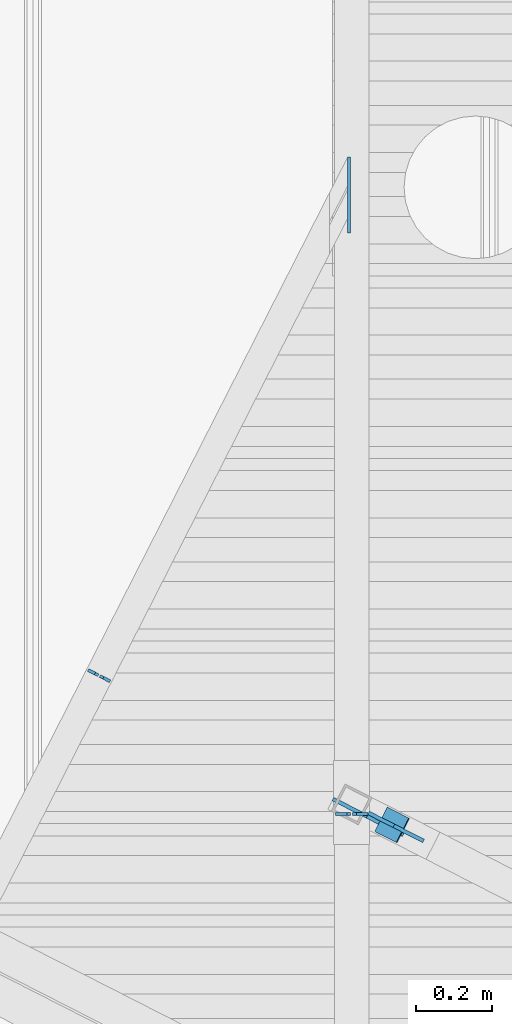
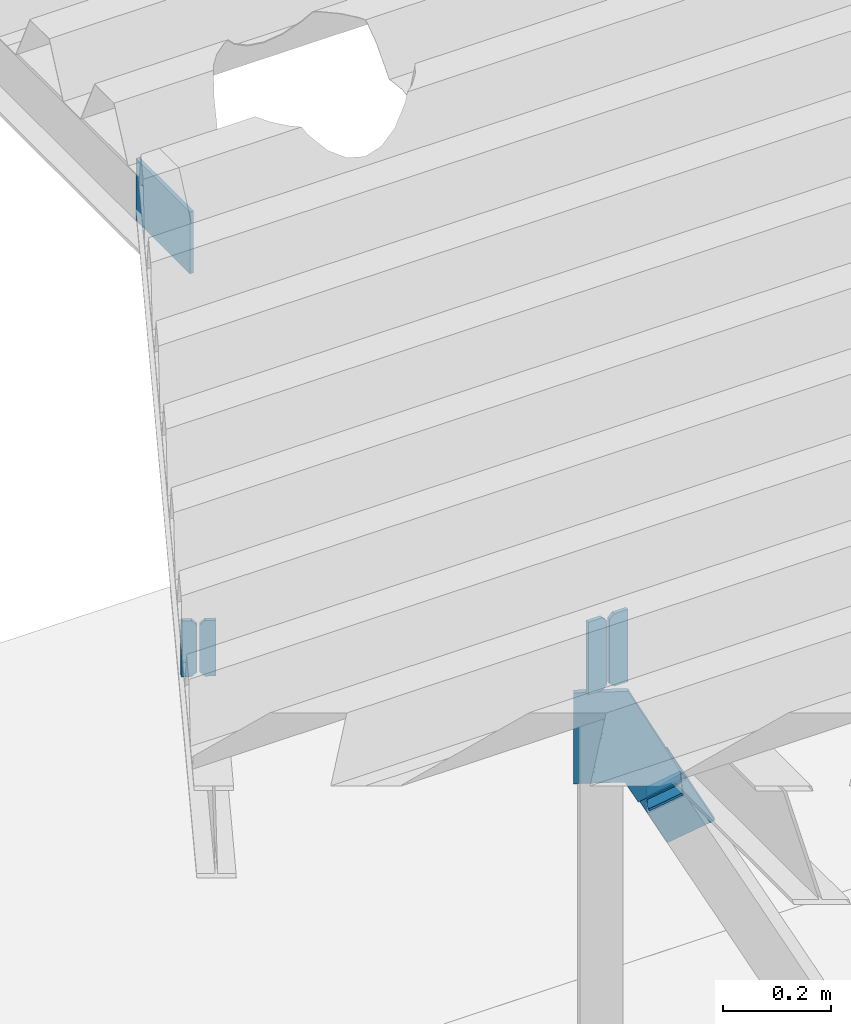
# One storey, part 18 of 30: 9 beams.
"""IFC2X3 building model written with IfcOpenShell, lengths in millimetres."""

from ifc_helpers import new_model, entity, si_unit, converted_unit, derived_unit, direction, frame, origin_with_axes, place, context, subcontext, project, spatial, faceted_brep, material, type_object, element, save


model = new_model("IFC2X3")

# Units and contexts
model_context = context("Model", 3, precision=0.01, world=frame((0.0, 4.29681676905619e-09, 0.0)), true_north=direction((4.01073788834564e-13, 1.0)))
plan_context = context("Plan", 3, precision=0.01, world=frame((0.0, 4.29681676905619e-09, 0.0)), true_north=direction((4.01073788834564e-13, 1.0)))
body_context = subcontext(model_context, "Body", "Model", "MODEL_VIEW")
ifc_project = project(units=[converted_unit("PLANEANGLEUNIT", "DEGREE", entity("IfcPositiveLengthMeasure", 0.0174532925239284), si_unit("PLANEANGLEUNIT", "RADIAN"), dimensions=[0, 0, 0, 0, 0, 0, 0]), si_unit("AREAUNIT", "SQUARE_METRE"), si_unit("LENGTHUNIT", "METRE", prefix="MILLI"), si_unit("MASSUNIT", "GRAM", prefix="KILO"), si_unit("POWERUNIT", "WATT"), si_unit("PRESSUREUNIT", "PASCAL"), si_unit("FORCEUNIT", "NEWTON", prefix="KILO"), si_unit("ELECTRICVOLTAGEUNIT", "VOLT"), si_unit("ELECTRICCURRENTUNIT", "AMPERE"), si_unit("THERMODYNAMICTEMPERATUREUNIT", "DEGREE_CELSIUS"), si_unit("TIMEUNIT", "SECOND"), si_unit("VOLUMEUNIT", "CUBIC_METRE"), derived_unit("LINEARVELOCITYUNIT", [(si_unit("LENGTHUNIT", "METRE"), 1), (si_unit("TIMEUNIT", "SECOND"), -1)]), derived_unit("VOLUMETRICFLOWRATEUNIT", [(si_unit("VOLUMEUNIT", "CUBIC_METRE"), 1), (si_unit("TIMEUNIT", "SECOND"), -1)]), derived_unit("THERMALTRANSMITTANCEUNIT", [(si_unit("POWERUNIT", "WATT"), 1), (si_unit("THERMODYNAMICTEMPERATUREUNIT", "KELVIN"), -1), (si_unit("AREAUNIT", "SQUARE_METRE"), -1)]), derived_unit("SOUNDPRESSUREUNIT", [(si_unit("PRESSUREUNIT", "PASCAL"), 1)])], contexts=[model_context, plan_context])

# Site, building, storey
site_placement = place(None, frame((0.0, -4.29681676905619e-09, 0.0), z_axis=(0.0, 0.0, 1.0), x_axis=(1.0, 0.0, 0.0)))
site = spatial("IfcSite", under=ifc_project, at=site_placement, Name="Gardermoen", CompositionType="ELEMENT")
building_placement = place(site_placement, frame((0.0, 4.29681676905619e-09, 0.0), z_axis=(0.0, 0.0, 1.0), x_axis=(1.0, 0.0, 0.0)))
building = spatial("IfcBuilding", under=site, at=building_placement, Name="TI", CompositionType="ELEMENT")
storey_placement = place(building_placement, origin_with_axes())
storey = spatial("IfcBuildingStorey", under=building, at=storey_placement, Name="F", CompositionType="ELEMENT", Elevation=0.0)

# Beams
ifc_material_1 = material(Name="STEEL/S355J2H")
beam_type_1 = type_object("IfcBeamType", Name="PL10*100", PredefinedType="NOTDEFINED")
beam_1_placement = place(storey_placement, frame((605574.39627044, 695441.818971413, 213346.474555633), z_axis=(0.784007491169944, -0.399462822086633, 0.475143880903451), x_axis=(0.423356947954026, -0.215709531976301, -0.879908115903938)))
element("IfcBeam", 1, at=beam_1_placement, inside=storey, type_object=beam_type_1, material=ifc_material_1, Name="STÅLBJELKE", ObjectType="PL10*100", context=body_context, shape_type="Brep", body=[
    faceted_brep([(2.91038304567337e-11, 5.00000000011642, 50.0000000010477), (-8.73114913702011e-11, -4.99999999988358, 50.0000000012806), (184.999991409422, -5.00000000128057, 50.000000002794), (184.999991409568, 4.99999999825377, 50.0000000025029), (184.999991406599, -5.00000000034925, -49.9999999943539), (184.999991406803, 4.99999999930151, -49.9999999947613), (28.9532375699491, -5.00000000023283, -50.0000000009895), (28.9533360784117, 5.0, -50.0000000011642), (-7.27595761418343e-10, 5.00000000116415, -34.3654124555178), (-6.69388100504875e-10, -4.99999999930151, -34.3654656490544)], [[[0, 1, 2, 3]], [[2, 4, 5, 3]], [[5, 4, 6, 7]], [[0, 3, 5, 7, 8]], [[1, 0, 8, 9]], [[4, 2, 1, 9, 6]], [[8, 7, 6, 9]]]),
])
ifc_material_2 = material(Name="STEEL/S355")
beam_type_2 = type_object("IfcBeamType", Name="PL8*200", PredefinedType="NOTDEFINED")
beam_2_placement = place(storey_placement, frame((605496.263279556, 697079.372571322, 213539.999809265), z_axis=(0.0, -1.0, 0.0), x_axis=(0.0, 0.0, 1.0)))
element("IfcBeam", 2, at=beam_2_placement, inside=storey, type_object=beam_type_2, material=ifc_material_2, Name="STÅLBJELKE", ObjectType="PL8*200", context=body_context, shape_type="Brep", body=[
    faceted_brep([(-4.07453626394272e-09, 3.99999999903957, -100.000000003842), (4.30736690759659e-09, 4.00000000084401, 100.000000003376), (140.0, 4.0, 100.0), (140.0, 4.0, -100.0), (3.95812094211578e-09, -3.99999999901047, 100.000000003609), (140.0, -4.0, 100.0), (-4.30736690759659e-09, -4.00000000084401, -100.000000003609), (140.0, -4.0, -100.0)], [[[0, 1, 2, 3]], [[1, 4, 5, 2]], [[4, 6, 7, 5]], [[6, 0, 3, 7]], [[5, 7, 3, 2]], [[6, 4, 1, 0]]]),
])
ifc_material_3 = material(Name="STEEL/S355J0")
beam_type_3 = type_object("IfcBeamType", Name="PL8*30", PredefinedType="NOTDEFINED")
beam_3_placement = place(storey_placement, frame((604810.155900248, 695831.226521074, 213566.89980936), z_axis=(0.0, 0.0, 1.0), x_axis=(0.891006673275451, -0.453990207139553, 0.0)))
element("IfcBeam", 3, at=beam_3_placement, inside=storey, type_object=beam_type_3, material=ifc_material_3, Name="STÅLBJELKE", ObjectType="PL8*30", context=body_context, shape_type="Brep", body=[
    faceted_brep([(-5.82076609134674e-11, -3.99999999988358, 0.0), (-2.3283064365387e-10, -4.00000000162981, 126.199996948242), (-3.49245965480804e-10, 3.99999999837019, 126.199996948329), (-5.82076609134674e-11, 4.00000000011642, -5.82076609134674e-11), (20.0, -4.00000000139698, 126.199996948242), (19.9999999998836, 3.99999999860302, 126.199996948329), (30.0000000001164, -4.00000000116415, 116.199996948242), (30.0, 3.99999999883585, 116.199996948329), (30.0000000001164, -3.99999999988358, 9.9999999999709), (30.0000000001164, 4.00000000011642, 10.0000000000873), (20.0000000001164, -3.99999999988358, -2.91038304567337e-11), (20.0, 4.00000000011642, 8.73114913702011e-11)], [[[0, 1, 2, 3]], [[1, 4, 5, 2]], [[4, 6, 7, 5]], [[6, 8, 9, 7]], [[8, 10, 11, 9]], [[10, 0, 3, 11]], [[5, 7, 9, 11, 3, 2]], [[10, 8, 6, 4, 1, 0]]]),
])
beam_4_placement = place(storey_placement, frame((604841.073831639, 695815.473060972, 213566.89980936), z_axis=(0.0, 0.0, 1.0), x_axis=(0.891006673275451, -0.453990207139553, 0.0)))
element("IfcBeam", 4, at=beam_4_placement, inside=storey, type_object=beam_type_3, material=ifc_material_3, Name="STÅLBJELKE", ObjectType="PL8*30", context=body_context, shape_type="Brep", body=[
    faceted_brep([(7.10249878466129e-07, -4.00000000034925, 10.0000000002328), (-2.3283064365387e-10, -4.0000000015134, 116.199996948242), (-2.3283064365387e-10, 3.99999999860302, 116.199996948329), (7.10017047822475e-07, 3.99999999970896, 10.000000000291), (9.99999999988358, -4.0000000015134, 126.199996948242), (9.99999999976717, 3.99999999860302, 126.199996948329), (30.0000000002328, -4.00000000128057, 126.199996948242), (30.0000000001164, 3.99999999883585, 126.199996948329), (30.0000000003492, -3.99999999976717, 0.0), (30.0000000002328, 4.00000000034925, 1.16415321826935e-10), (10.0000000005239, -4.0, 3.78349795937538e-10), (10.0000000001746, 3.99999999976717, 4.65661287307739e-10)], [[[0, 1, 2, 3]], [[1, 4, 5, 2]], [[4, 6, 7, 5]], [[6, 8, 9, 7]], [[8, 10, 11, 9]], [[10, 0, 3, 11]], [[5, 7, 9, 11, 3, 2]], [[10, 8, 6, 4, 1, 0]]]),
])
beam_type_4 = type_object("IfcBeamType", Name="PL8*40", PredefinedType="NOTDEFINED")
beam_5_placement = place(storey_placement, frame((605460.2615471, 695452.767482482, 213527.999907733), z_axis=(0.0, 0.0, 1.0), x_axis=(1.0, 0.0, 0.0)))
element("IfcBeam", 5, at=beam_5_placement, inside=storey, type_object=beam_type_4, material=ifc_material_3, Name="STÅLBJELKE", ObjectType="PL8*40", context=body_context, shape_type="Brep", body=[
    faceted_brep([(-5.82076609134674e-11, -3.99999999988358, 0.0), (2.3283064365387e-10, -3.99999999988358, 164.0), (-2.3283064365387e-10, 4.00000000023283, 164.0), (-5.82076609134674e-11, 4.00000000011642, -5.82076609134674e-11), (30.0000000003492, -3.99999999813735, 164.0), (29.9999999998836, 4.00000000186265, 164.0), (40.0000000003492, -3.99999999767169, 154.0), (40.0, 4.00000000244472, 154.0), (40.0, -4.00000000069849, 10.0), (40.0000000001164, 3.99999999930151, 10.0), (30.0000000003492, -3.99999999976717, 0.0), (30.0000000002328, 4.00000000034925, 1.16415321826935e-10)], [[[0, 1, 2, 3]], [[1, 4, 5, 2]], [[4, 6, 7, 5]], [[6, 8, 9, 7]], [[8, 10, 11, 9]], [[10, 0, 3, 11]], [[5, 7, 9, 11, 3, 2]], [[10, 8, 6, 4, 1, 0]]]),
])
beam_6_placement = place(storey_placement, frame((605505.561547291, 695452.767499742, 213527.999907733), z_axis=(0.0, 0.0, 1.0), x_axis=(1.0, 0.0, 0.0)))
element("IfcBeam", 6, at=beam_6_placement, inside=storey, type_object=beam_type_4, material=ifc_material_3, Name="STÅLBJELKE", ObjectType="PL8*40", context=body_context, shape_type="Brep", body=[
    faceted_brep([(7.10249878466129e-07, -4.00000000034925, 10.0000000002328), (1.16415321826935e-10, -4.0, 154.0), (-1.16415321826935e-10, 4.0, 154.0), (7.10017047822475e-07, 3.99999999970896, 10.000000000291), (10.0000000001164, -3.99999999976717, 164.0), (9.99999999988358, 4.00000000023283, 164.0), (40.0000000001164, -3.99999999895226, 164.0), (39.9999999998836, 4.00000000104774, 164.0), (40.0000000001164, -3.99999999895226, 2.91038304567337e-11), (39.9999999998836, 4.00000000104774, 2.91038304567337e-11), (10.0000000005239, -4.0, 3.78349795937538e-10), (10.0000000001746, 3.99999999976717, 4.65661287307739e-10)], [[[0, 1, 2, 3]], [[1, 4, 5, 2]], [[4, 6, 7, 5]], [[6, 8, 9, 7]], [[8, 10, 11, 9]], [[10, 0, 3, 11]], [[5, 7, 9, 11, 3, 2]], [[10, 8, 6, 4, 1, 0]]]),
])
beam_type_5 = type_object("IfcBeamType", Name="PL5*31", PredefinedType="NOTDEFINED")
for number, where, z_axis, x_axis in (
    (7, (605653.891005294, 695441.718366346, 213290.987340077), (-0.784005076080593, 0.399467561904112, -0.475143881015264), (-0.453987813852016, -0.89100789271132, 0.0)),
    (8, (605635.277504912, 695405.187042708, 213290.987340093), (-0.784005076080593, 0.399467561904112, -0.475143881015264), (-0.453987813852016, -0.89100789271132, 0.0)),
):
    element("IfcBeam", number, at=place(storey_placement, frame(where, z_axis=z_axis, x_axis=x_axis)), inside=storey, type_object=beam_type_5, material=ifc_material_1, Name="STÅLBJELKE", ObjectType="PL5*31", context=body_context, shape_type="Brep", body=[
        faceted_brep([(0.0, -2.5, 0.0), (-4.07453626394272e-10, -2.50000000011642, 72.0000000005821), (-4.07453626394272e-10, 2.5, 72.0000000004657), (0.0, 2.5, 0.0), (31.0000000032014, -2.50000000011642, 72.0000000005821), (31.0000000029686, 2.5, 72.0000000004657), (31.000000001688, -2.49999999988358, -6.98491930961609e-10), (31.000000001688, 2.50000000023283, -8.14907252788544e-10)], [[[0, 1, 2, 3]], [[1, 4, 5, 2]], [[4, 6, 7, 5]], [[6, 0, 3, 7]], [[5, 7, 3, 2]], [[6, 4, 1, 0]]]),
    ])
beam_type_6 = type_object("IfcBeamType", Name="PL10*207", PredefinedType="NOTDEFINED")
beam_7_placement = place(storey_placement, frame((605453.810707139, 695492.036682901, 213306.662898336), z_axis=(0.891007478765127, -0.45398760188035, 0.000964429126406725), x_axis=(-0.00085931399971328, 0.000437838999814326, 0.999999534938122)))
element("IfcBeam", 9, at=beam_7_placement, inside=storey, type_object=beam_type_6, material=ifc_material_1, Name="STÅLBJELKE", ObjectType="PL10*207", context=body_context, shape_type="Brep", body=[
    faceted_brep([(0.0, -5.0, 0.0), (-0.091534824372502, -4.99999999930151, 94.9108123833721), (-0.0915348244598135, 5.00000000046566, 94.9108123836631), (0.0, 5.0, 0.0), (-45.6552314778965, -5.00000000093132, 119.460212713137), (-45.6552314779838, 4.99999999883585, 119.460212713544), (1.77427100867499, -4.99999999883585, 207.496810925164), (1.77427100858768, 5.00000000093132, 207.496810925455), (205.237274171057, -4.99999999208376, 100.764968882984), (205.23727417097, 5.00000000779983, 100.764968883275), (205.334472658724, -4.99999999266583, 3.95812094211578e-09), (205.334472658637, 5.00000000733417, 4.42378222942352e-09)], [[[0, 1, 2, 3]], [[1, 4, 5, 2]], [[4, 6, 7, 5]], [[6, 8, 9, 7]], [[8, 10, 11, 9]], [[10, 0, 3, 11]], [[5, 7, 9, 11, 3, 2]], [[10, 8, 6, 4, 1, 0]]]),
])

save(model, "model.ifc")
